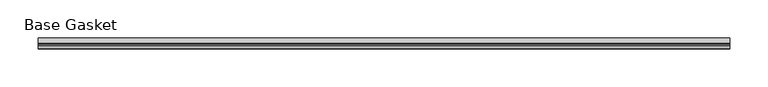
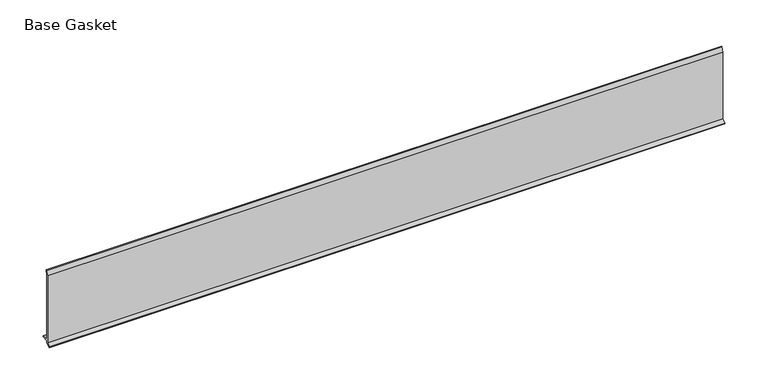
"""IFC4 building model written with IfcOpenShell, lengths in millimetres: furniture geometry, Gasket-Teknion-FHGB-AI_Healthcare-R2021 : Base Gasket."""

from ifc_helpers import new_model, si_unit, frame, origin, place, context, project, spatial, polyline, outline, extrude, source, transform, mapped, element, save


def base_gasket_17d947b1(model_context):
    return source(origin(), model_context, "Body", "SweptSolid", [
        extrude(outline(polyline([(-3.7283812, 98.4568417), (-1.1891543, 104.587663), (-0.6755308, 105.2002997), (-0.6755308, 104.4162708), (-2.2043812, 98.4568417), (-2.2043812, 96.8693477), (-1.4106313, 96.8693477), (-1.4106313, 71.4693447), (-2.2043812, 71.4693447), (-2.2043812, 7.9398773), (6.2405171, 7.9398773), (6.2405171, 6.3818476), (-2.1334222, 6.3818476), (-2.2043812, 4.3498477), (-6.8281054, 0.3520979), (-7.8482342, 0.0), (-7.4222115, 0.6560174), (-3.7283812, 4.3498477), (-3.7283812, 98.4568417)])), frame((-1527.8982117, 0.0, 0.0), z_axis=(1.0, 0.0, 0.0), x_axis=(0.0, 1.0, 0.0)), (0.0, 0.0, 1.0), 901.5681744),
    ])


if __name__ == "__main__":
    model = new_model("IFC4")
    model_context = context("Model", 3, world=origin())
    ifc_project = project(units=[si_unit("LENGTHUNIT", "METRE", prefix="MILLI")], contexts=[model_context])
    site = spatial("IfcSite", under=ifc_project)
    building = spatial("IfcBuilding", under=site)
    placement = place(None, origin())
    base_gasket_shape = base_gasket_17d947b1(model_context)
    element("IfcFurniture", 1, ObjectType="Gasket-Teknion-FHGB-AI_Healthcare-R2021 : Base Gasket", at=placement, inside=building, context=model_context, shape_type="MappedRepresentation", body=[
        mapped(base_gasket_shape, transform((0.0, 0.0, 0.0), x_axis=(1.0, 0.0, 0.0), y_axis=(0.0, 1.0, 0.0), z_axis=(0.0, 0.0, 1.0))),
    ])
    save(model, "model.ifc")
